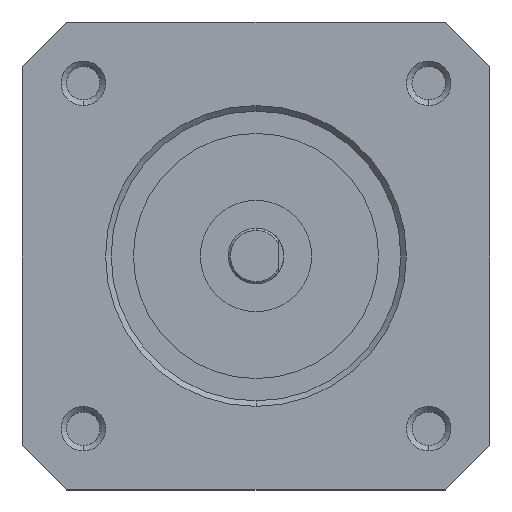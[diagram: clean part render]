
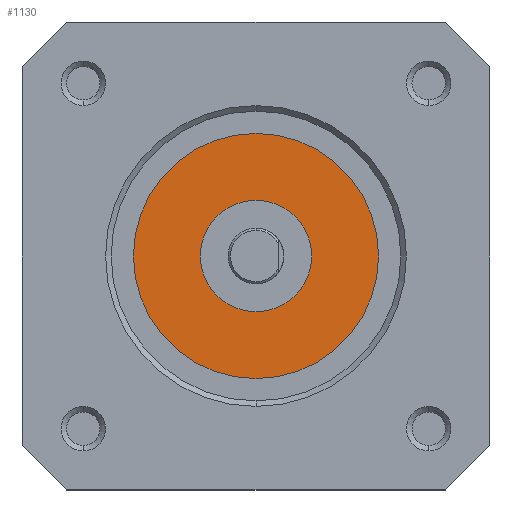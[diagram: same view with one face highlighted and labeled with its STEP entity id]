
A CAD part, left-side view. The second image highlights one B-rep face of the part: STEP entity #1130.
In plain terms, the highlighted planar face has unit normal (-1, 0, 0) as drawn and (0, 0, -1) by its records, which use the part's own axes.
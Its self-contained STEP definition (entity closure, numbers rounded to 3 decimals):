
#17 = ORIENTED_EDGE ( 'NONE', *, *, #4837, .T. ) ;
#43 = CIRCLE ( 'NONE', #5145, 5. ) ;
#56 = EDGE_CURVE ( 'NONE', #2827, #1909, #6014, .T. ) ;
#213 = DIRECTION ( 'NONE',  ( 0., 0., -1. ) ) ;
#1130 = ADVANCED_FACE ( 'NONE', ( #1863, #1930 ), #2427, .T. ) ;
#1331 = EDGE_LOOP ( 'NONE', ( #4065, #4317 ) ) ;
#1386 = AXIS2_PLACEMENT_3D ( 'NONE', #2074, #213, #2021 ) ;
#1443 = CARTESIAN_POINT ( 'NONE',  ( -11., 0., -2. ) ) ;
#1495 = DIRECTION ( 'NONE',  ( -1., 0., 0. ) ) ;
#1546 = DIRECTION ( 'NONE',  ( 0., 0., 1. ) ) ;
#1558 = EDGE_LOOP ( 'NONE', ( #2591, #17 ) ) ;
#1576 = CARTESIAN_POINT ( 'NONE',  ( 11., 0., -2. ) ) ;
#1688 = CARTESIAN_POINT ( 'NONE',  ( 0., 0., -2. ) ) ;
#1713 = VERTEX_POINT ( 'NONE', #4863 ) ;
#1863 = FACE_OUTER_BOUND ( 'NONE', #1331, .T. ) ;
#1909 = VERTEX_POINT ( 'NONE', #1443 ) ;
#1930 = FACE_BOUND ( 'NONE', #1558, .T. ) ;
#1986 = VERTEX_POINT ( 'NONE', #2510 ) ;
#2021 = DIRECTION ( 'NONE',  ( 0., -1., 0. ) ) ;
#2074 = CARTESIAN_POINT ( 'NONE',  ( 0., 0., -2. ) ) ;
#2427 = PLANE ( 'NONE',  #1386 ) ;
#2510 = CARTESIAN_POINT ( 'NONE',  ( 5., 0., -2. ) ) ;
#2591 = ORIENTED_EDGE ( 'NONE', *, *, #4666, .T. ) ;
#2633 = CIRCLE ( 'NONE', #5032, 11. ) ;
#2827 = VERTEX_POINT ( 'NONE', #1576 ) ;
#2906 = DIRECTION ( 'NONE',  ( 0., 0., 1. ) ) ;
#2931 = CARTESIAN_POINT ( 'NONE',  ( 0., 0., -2. ) ) ;
#2955 = DIRECTION ( 'NONE',  ( 1., 0., 0. ) ) ;
#4065 = ORIENTED_EDGE ( 'NONE', *, *, #56, .F. ) ;
#4317 = ORIENTED_EDGE ( 'NONE', *, *, #4826, .F. ) ;
#4512 = CIRCLE ( 'NONE', #5031, 5. ) ;
#4666 = EDGE_CURVE ( 'NONE', #1713, #1986, #43, .T. ) ;
#4802 = DIRECTION ( 'NONE',  ( -1., 0., 0. ) ) ;
#4826 = EDGE_CURVE ( 'NONE', #1909, #2827, #2633, .T. ) ;
#4837 = EDGE_CURVE ( 'NONE', #1986, #1713, #4512, .T. ) ;
#4841 = DIRECTION ( 'NONE',  ( 0., 0., 1. ) ) ;
#4848 = CARTESIAN_POINT ( 'NONE',  ( 0., 0., -2. ) ) ;
#4863 = CARTESIAN_POINT ( 'NONE',  ( -5., 0., -2. ) ) ;
#5031 = AXIS2_PLACEMENT_3D ( 'NONE', #4848, #4841, #4802 ) ;
#5032 = AXIS2_PLACEMENT_3D ( 'NONE', #5088, #5074, #5050 ) ;
#5050 = DIRECTION ( 'NONE',  ( 1., 0., 0. ) ) ;
#5074 = DIRECTION ( 'NONE',  ( 0., 0., 1. ) ) ;
#5088 = CARTESIAN_POINT ( 'NONE',  ( 0., 0., -2. ) ) ;
#5145 = AXIS2_PLACEMENT_3D ( 'NONE', #1688, #1546, #1495 ) ;
#5710 = AXIS2_PLACEMENT_3D ( 'NONE', #2931, #2906, #2955 ) ;
#6014 = CIRCLE ( 'NONE', #5710, 11. ) ;
